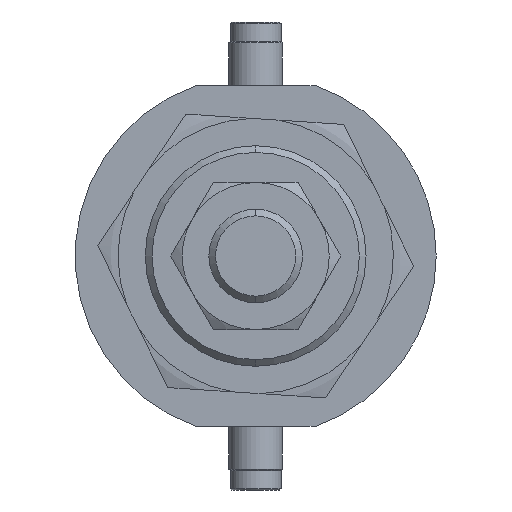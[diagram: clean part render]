
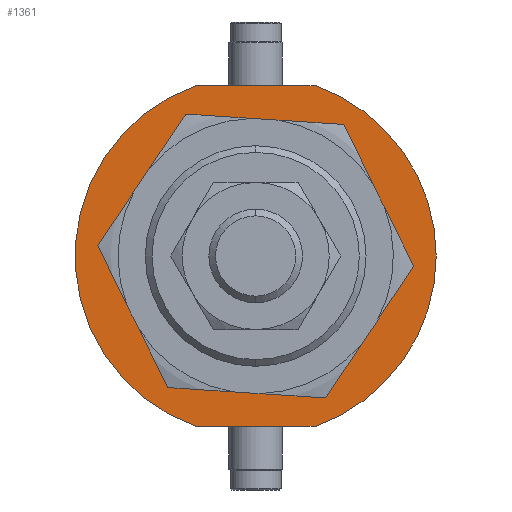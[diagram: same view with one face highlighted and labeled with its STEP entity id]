
A CAD part, left-side view. The second image highlights one B-rep face of the part: STEP entity #1361.
In plain terms, the highlighted planar face has unit normal (-1, 0, 0) as drawn and (0, 1, 0) by its records, which use the part's own axes.
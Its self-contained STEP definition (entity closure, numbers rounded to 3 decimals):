
#27 = ORIENTED_EDGE ( 'NONE', *, *, #2588, .F. ) ;
#225 = CARTESIAN_POINT ( 'NONE',  ( 0., 4.5, 0. ) ) ;
#251 = ORIENTED_EDGE ( 'NONE', *, *, #3088, .T. ) ;
#257 = FACE_OUTER_BOUND ( 'NONE', #3249, .T. ) ;
#285 = VERTEX_POINT ( 'NONE', #2650 ) ;
#371 = AXIS2_PLACEMENT_3D ( 'NONE', #1258, #2863, #1952 ) ;
#373 = DIRECTION ( 'NONE',  ( 0., 0., 1. ) ) ;
#386 = DIRECTION ( 'NONE',  ( 0., 0., 1. ) ) ;
#427 = AXIS2_PLACEMENT_3D ( 'NONE', #2138, #2779, #896 ) ;
#551 = VERTEX_POINT ( 'NONE', #1509 ) ;
#668 = VERTEX_POINT ( 'NONE', #2905 ) ;
#670 = AXIS2_PLACEMENT_3D ( 'NONE', #2980, #3574, #373 ) ;
#767 = VECTOR ( 'NONE', #386, 1000. ) ;
#868 = FACE_BOUND ( 'NONE', #3046, .T. ) ;
#896 = DIRECTION ( 'NONE',  ( 0., 0., 1. ) ) ;
#916 = VECTOR ( 'NONE', #3952, 1000. ) ;
#925 = AXIS2_PLACEMENT_3D ( 'NONE', #3092, #2503, #2135 ) ;
#965 = LINE ( 'NONE', #3319, #916 ) ;
#1103 = CARTESIAN_POINT ( 'NONE',  ( -25.5, 4.5, 8.874 ) ) ;
#1209 = EDGE_CURVE ( 'NONE', #551, #1580, #2628, .T. ) ;
#1258 = CARTESIAN_POINT ( 'NONE',  ( 0., 4.5, 0. ) ) ;
#1328 = CIRCLE ( 'NONE', #427, 16.5 ) ;
#1361 = ADVANCED_FACE ( 'NONE', ( #868, #257 ), #2944, .T. ) ;
#1454 = EDGE_CURVE ( 'NONE', #1580, #4062, #965, .T. ) ;
#1509 = CARTESIAN_POINT ( 'NONE',  ( 0., 4.5, 27. ) ) ;
#1580 = VERTEX_POINT ( 'NONE', #3700 ) ;
#1648 = DIRECTION ( 'NONE',  ( 0., 1., 0. ) ) ;
#1670 = CIRCLE ( 'NONE', #2573, 16.5 ) ;
#1796 = ORIENTED_EDGE ( 'NONE', *, *, #3408, .T. ) ;
#1815 = DIRECTION ( 'NONE',  ( 0., 1., 0. ) ) ;
#1844 = VERTEX_POINT ( 'NONE', #2713 ) ;
#1952 = DIRECTION ( 'NONE',  ( 0., 0., 1. ) ) ;
#1982 = DIRECTION ( 'NONE',  ( 0., 0., 1. ) ) ;
#2135 = DIRECTION ( 'NONE',  ( 0., 0., 1. ) ) ;
#2138 = CARTESIAN_POINT ( 'NONE',  ( 0., 4.5, 0. ) ) ;
#2217 = ORIENTED_EDGE ( 'NONE', *, *, #1209, .T. ) ;
#2283 = CIRCLE ( 'NONE', #925, 27. ) ;
#2298 = CARTESIAN_POINT ( 'NONE',  ( 0., 4.5, 0. ) ) ;
#2503 = DIRECTION ( 'NONE',  ( 0., 1., 0. ) ) ;
#2573 = AXIS2_PLACEMENT_3D ( 'NONE', #225, #1815, #3751 ) ;
#2588 = EDGE_CURVE ( 'NONE', #668, #1844, #1328, .T. ) ;
#2628 = CIRCLE ( 'NONE', #371, 27. ) ;
#2650 = CARTESIAN_POINT ( 'NONE',  ( -25.5, 4.5, -8.874 ) ) ;
#2713 = CARTESIAN_POINT ( 'NONE',  ( 0., 4.5, 16.5 ) ) ;
#2779 = DIRECTION ( 'NONE',  ( 0., 1., 0. ) ) ;
#2840 = AXIS2_PLACEMENT_3D ( 'NONE', #2298, #1648, #1982 ) ;
#2863 = DIRECTION ( 'NONE',  ( 0., 1., 0. ) ) ;
#2905 = CARTESIAN_POINT ( 'NONE',  ( 0., 4.5, -16.5 ) ) ;
#2944 = PLANE ( 'NONE',  #670 ) ;
#2980 = CARTESIAN_POINT ( 'NONE',  ( 0., 4.5, 0. ) ) ;
#3022 = CIRCLE ( 'NONE', #2840, 27. ) ;
#3046 = EDGE_LOOP ( 'NONE', ( #3295, #27 ) ) ;
#3088 = EDGE_CURVE ( 'NONE', #4143, #551, #2283, .T. ) ;
#3092 = CARTESIAN_POINT ( 'NONE',  ( 0., 4.5, 0. ) ) ;
#3111 = EDGE_CURVE ( 'NONE', #1844, #668, #1670, .T. ) ;
#3249 = EDGE_LOOP ( 'NONE', ( #3793, #1796, #251, #2217, #3566 ) ) ;
#3295 = ORIENTED_EDGE ( 'NONE', *, *, #3111, .F. ) ;
#3319 = CARTESIAN_POINT ( 'NONE',  ( 25.5, 4.5, -8.874 ) ) ;
#3330 = LINE ( 'NONE', #3880, #767 ) ;
#3408 = EDGE_CURVE ( 'NONE', #285, #4143, #3330, .T. ) ;
#3566 = ORIENTED_EDGE ( 'NONE', *, *, #1454, .T. ) ;
#3574 = DIRECTION ( 'NONE',  ( 0., 1., 0. ) ) ;
#3700 = CARTESIAN_POINT ( 'NONE',  ( 25.5, 4.5, 8.874 ) ) ;
#3751 = DIRECTION ( 'NONE',  ( 0., 0., 1. ) ) ;
#3793 = ORIENTED_EDGE ( 'NONE', *, *, #3809, .T. ) ;
#3809 = EDGE_CURVE ( 'NONE', #4062, #285, #3022, .T. ) ;
#3880 = CARTESIAN_POINT ( 'NONE',  ( -25.5, 4.5, -8.874 ) ) ;
#3952 = DIRECTION ( 'NONE',  ( 0., 0., -1. ) ) ;
#3995 = CARTESIAN_POINT ( 'NONE',  ( 25.5, 4.5, -8.874 ) ) ;
#4062 = VERTEX_POINT ( 'NONE', #3995 ) ;
#4143 = VERTEX_POINT ( 'NONE', #1103 ) ;
